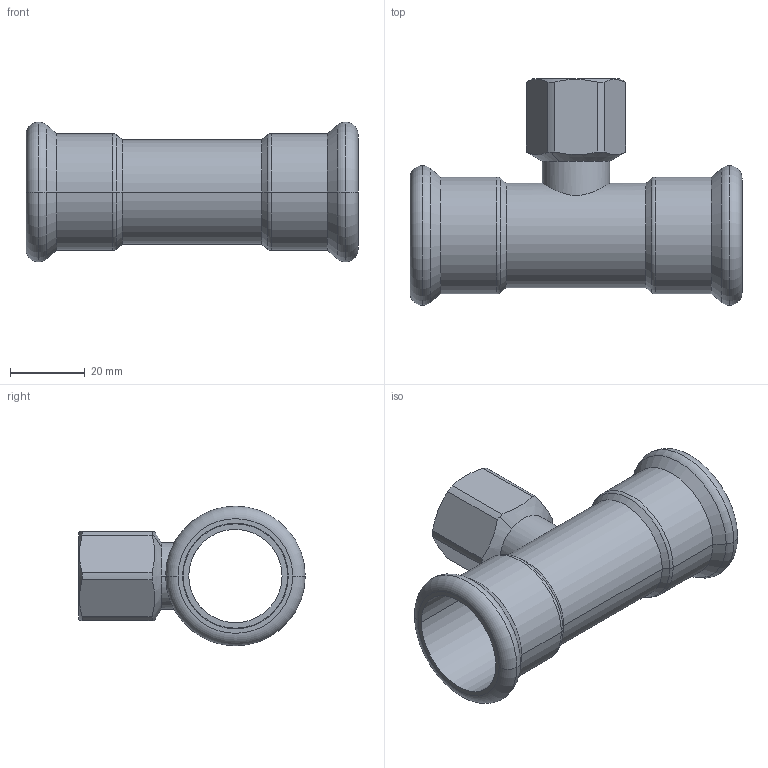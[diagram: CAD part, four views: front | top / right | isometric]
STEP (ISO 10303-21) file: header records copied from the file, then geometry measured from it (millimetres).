
FILE_DESCRIPTION(('CoCreate Modeling STEP Export'),'2;1');
FILE_NAME('C1418 28xRp1-2x28.stp','2014-11-12T13:37:20',(''),(''),'CoCreate Modeling STEP processor for AP214 (Solid Model)','CoCreate Modeling 17.00A 17-Jun-2010 (C) Parametric Technology GmbH','');
FILE_SCHEMA(('AUTOMOTIVE_DESIGN { 1 0 10303 214 1 1 1 1 }'));
Length unit declared in the file: millimetre
Products named in the file (2): C1418_28xRp1-2x28
Assembly tree (1 placements, depth 2):
  C1418_28xRp1-2x28
    C1418_28xRp1-2x28
Bounding box: 89 x 60.73 x 37.45 mm (x, y, z)
Volume: 20272.8 mm3; surface area: 21322.8 mm2
Topology: 1 solids, 1 shells, 66 faces, 156 edges, 96 vertices
Faces by surface type: cylinder 28, plane 14, torus 12, cone 12
Entity records: 3518 total; most frequent: CARTESIAN_POINT 2133, ORIENTED_EDGE 312, DIRECTION 240, EDGE_CURVE 156, AXIS2_PLACEMENT_3D 97, VERTEX_POINT 96, EDGE_LOOP 74, FACE_OUTER_BOUND 66
